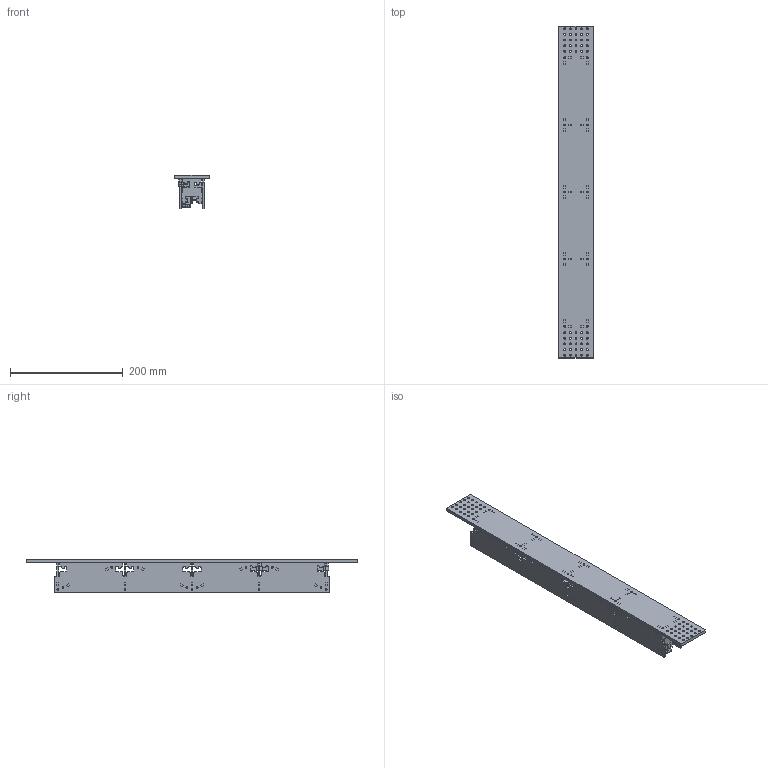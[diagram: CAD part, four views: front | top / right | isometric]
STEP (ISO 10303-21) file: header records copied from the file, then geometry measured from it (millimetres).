
FILE_DESCRIPTION(/* description */ (''),/* implementation_level */ '2;1');
FILE_NAME(/* name */ 'D:/dropbox/CBA/projects/machines/littleRascal/cad/BEAMS/RCT N17 Beam P3 5_64 Acrylic.step',/* time_stamp */ '2019-05-17T16:03:31-04:00',/* author */ ('jakerobertread@gmail.com'),/* organization */ (''),/* preprocessor_version */ 'ST-DEVELOPER v18',/* originating_system */ 'Autodesk Translation Framework v8.2.0.1029',/* authorisation */ '');
FILE_SCHEMA (('AUTOMOTIVE_DESIGN { 1 0 10303 214 3 1 1 }'));
Length unit declared in the file: millimetre
Products named in the file (4): RCT N17 Beam P3; Beam Lock P2 L; Beam Lock P2 TEE; Beam Lock P2 Singlet
Assembly tree (4 placements, depth 2):
  RCT N17 Beam P3
    Beam Lock P2 L
    Beam Lock P2 TEE
    Beam Lock P2 Singlet  x2
Bounding box: 60.55 x 590 x 60 mm (x, y, z)
Volume: 415240.2 mm3; surface area: 243630.4 mm2
Topology: 16 solids, 16 shells, 1621 faces, 4774 edges, 3189 vertices
Faces by surface type: plane 988, cylinder 621, cone 12
Full cylindrical faces by diameter (mm): 3.25 x36, 3.3 x50, 3.46 x4
Entity records: 53675 total; most frequent: CARTESIAN_POINT 9499, ORIENTED_EDGE 9344, DIRECTION 9072, EDGE_CURVE 4672, LINE 3418, VECTOR 3418, VERTEX_POINT 3122, AXIS2_PLACEMENT_3D 2827
